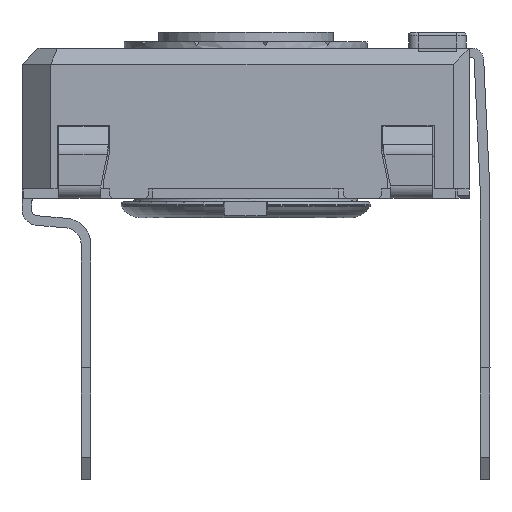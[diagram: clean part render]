
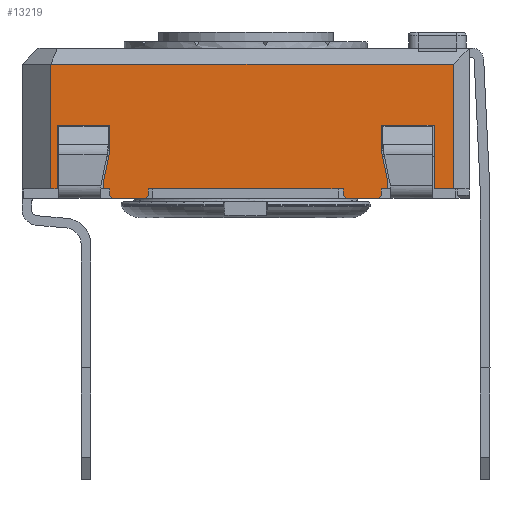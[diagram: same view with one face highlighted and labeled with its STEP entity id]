
A CAD part, left-side view. The second image highlights one B-rep face of the part: STEP entity #13219.
In plain terms, the highlighted planar face has unit normal (-1, 0, 0).
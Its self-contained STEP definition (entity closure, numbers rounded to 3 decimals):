
#1038=FACE_OUTER_BOUND('',#1726,.T.);
#1726=EDGE_LOOP('',(#10558,#10559,#10560,#10561,#10562,#10563,#10564,#10565,
#10566,#10567,#10568,#10569,#10570,#10571,#10572,#10573,#10574,#10575,#10576,
#10577,#10578,#10579,#10580,#10581,#10582,#10583,#10584,#10585));
#2730=LINE('',#20241,#4245);
#2736=LINE('',#20253,#4251);
#2739=LINE('',#20260,#4254);
#2744=LINE('',#20269,#4259);
#2764=LINE('',#20310,#4279);
#2778=LINE('',#20336,#4293);
#2782=LINE('',#20343,#4297);
#2797=LINE('',#20372,#4312);
#2800=LINE('',#20378,#4315);
#2805=LINE('',#20388,#4320);
#2808=LINE('',#20394,#4323);
#2811=LINE('',#20400,#4326);
#2829=LINE('',#20435,#4344);
#2841=LINE('',#20457,#4356);
#2844=LINE('',#20463,#4359);
#2881=LINE('',#20597,#4396);
#2884=LINE('',#20603,#4399);
#2910=LINE('',#20650,#4425);
#2915=LINE('',#20660,#4430);
#2917=LINE('',#20663,#4432);
#3042=LINE('',#20974,#4557);
#3044=LINE('',#20979,#4559);
#3047=LINE('',#20983,#4562);
#3049=LINE('',#20987,#4564);
#3052=LINE('',#20995,#4567);
#3053=LINE('',#20997,#4568);
#3054=LINE('',#20998,#4569);
#3055=LINE('',#20999,#4570);
#4245=VECTOR('',#16207,10.);
#4251=VECTOR('',#16215,10.);
#4254=VECTOR('',#16220,10.);
#4259=VECTOR('',#16227,10.);
#4279=VECTOR('',#16261,10.);
#4293=VECTOR('',#16275,10.);
#4297=VECTOR('',#16279,10.);
#4312=VECTOR('',#16306,10.);
#4315=VECTOR('',#16311,10.);
#4320=VECTOR('',#16318,10.);
#4323=VECTOR('',#16323,10.);
#4326=VECTOR('',#16328,10.);
#4344=VECTOR('',#16348,10.);
#4356=VECTOR('',#16362,10.);
#4359=VECTOR('',#16367,10.);
#4396=VECTOR('',#16448,10.);
#4399=VECTOR('',#16453,10.);
#4425=VECTOR('',#16481,10.);
#4430=VECTOR('',#16488,10.);
#4432=VECTOR('',#16492,10.);
#4557=VECTOR('',#16783,10.);
#4559=VECTOR('',#16787,10.);
#4562=VECTOR('',#16792,10.);
#4564=VECTOR('',#16798,10.);
#4567=VECTOR('',#16809,10.);
#4568=VECTOR('',#16810,10.);
#4569=VECTOR('',#16811,10.);
#4570=VECTOR('',#16812,10.);
#5672=VERTEX_POINT('',#20238);
#5673=VERTEX_POINT('',#20240);
#5677=VERTEX_POINT('',#20250);
#5679=VERTEX_POINT('',#20256);
#5681=VERTEX_POINT('',#20259);
#5684=VERTEX_POINT('',#20267);
#5709=VERTEX_POINT('',#20333);
#5710=VERTEX_POINT('',#20335);
#5712=VERTEX_POINT('',#20340);
#5713=VERTEX_POINT('',#20342);
#5720=VERTEX_POINT('',#20369);
#5722=VERTEX_POINT('',#20375);
#5726=VERTEX_POINT('',#20385);
#5728=VERTEX_POINT('',#20391);
#5731=VERTEX_POINT('',#20398);
#5747=VERTEX_POINT('',#20433);
#5756=VERTEX_POINT('',#20455);
#5758=VERTEX_POINT('',#20461);
#5785=VERTEX_POINT('',#20595);
#5786=VERTEX_POINT('',#20600);
#5806=VERTEX_POINT('',#20647);
#5810=VERTEX_POINT('',#20657);
#5884=VERTEX_POINT('',#20971);
#5885=VERTEX_POINT('',#20973);
#5886=VERTEX_POINT('',#20977);
#5887=VERTEX_POINT('',#20978);
#5888=VERTEX_POINT('',#20994);
#5889=VERTEX_POINT('',#20996);
#7214=EDGE_CURVE('',#5673,#5672,#2730,.T.);
#7220=EDGE_CURVE('',#5672,#5677,#2736,.T.);
#7223=EDGE_CURVE('',#5681,#5679,#2739,.T.);
#7228=EDGE_CURVE('',#5684,#5679,#2744,.T.);
#7248=EDGE_CURVE('',#5677,#5681,#2764,.T.);
#7262=EDGE_CURVE('',#5710,#5709,#2778,.T.);
#7266=EDGE_CURVE('',#5713,#5712,#2782,.T.);
#7282=EDGE_CURVE('',#5709,#5720,#2797,.T.);
#7285=EDGE_CURVE('',#5720,#5722,#2800,.T.);
#7290=EDGE_CURVE('',#5722,#5726,#2805,.T.);
#7293=EDGE_CURVE('',#5726,#5728,#2808,.T.);
#7296=EDGE_CURVE('',#5728,#5731,#2811,.T.);
#7314=EDGE_CURVE('',#5731,#5747,#2829,.T.);
#7326=EDGE_CURVE('',#5756,#5747,#2841,.T.);
#7329=EDGE_CURVE('',#5758,#5756,#2844,.T.);
#7378=EDGE_CURVE('',#5785,#5758,#2881,.T.);
#7381=EDGE_CURVE('',#5785,#5786,#2884,.T.);
#7407=EDGE_CURVE('',#5786,#5806,#2910,.T.);
#7412=EDGE_CURVE('',#5806,#5810,#2915,.T.);
#7414=EDGE_CURVE('',#5810,#5673,#2917,.T.);
#7555=EDGE_CURVE('',#5884,#5885,#3042,.T.);
#7557=EDGE_CURVE('',#5886,#5887,#3044,.T.);
#7560=EDGE_CURVE('',#5710,#5884,#3047,.T.);
#7562=EDGE_CURVE('',#5712,#5887,#3049,.T.);
#7565=EDGE_CURVE('',#5684,#5888,#3052,.T.);
#7566=EDGE_CURVE('',#5889,#5888,#3053,.T.);
#7567=EDGE_CURVE('',#5713,#5889,#3054,.T.);
#7568=EDGE_CURVE('',#5886,#5885,#3055,.T.);
#10558=ORIENTED_EDGE('',*,*,#7220,.T.);
#10559=ORIENTED_EDGE('',*,*,#7248,.T.);
#10560=ORIENTED_EDGE('',*,*,#7223,.T.);
#10561=ORIENTED_EDGE('',*,*,#7228,.F.);
#10562=ORIENTED_EDGE('',*,*,#7565,.T.);
#10563=ORIENTED_EDGE('',*,*,#7566,.F.);
#10564=ORIENTED_EDGE('',*,*,#7567,.F.);
#10565=ORIENTED_EDGE('',*,*,#7266,.T.);
#10566=ORIENTED_EDGE('',*,*,#7562,.T.);
#10567=ORIENTED_EDGE('',*,*,#7557,.F.);
#10568=ORIENTED_EDGE('',*,*,#7568,.T.);
#10569=ORIENTED_EDGE('',*,*,#7555,.F.);
#10570=ORIENTED_EDGE('',*,*,#7560,.F.);
#10571=ORIENTED_EDGE('',*,*,#7262,.T.);
#10572=ORIENTED_EDGE('',*,*,#7282,.T.);
#10573=ORIENTED_EDGE('',*,*,#7285,.T.);
#10574=ORIENTED_EDGE('',*,*,#7290,.T.);
#10575=ORIENTED_EDGE('',*,*,#7293,.T.);
#10576=ORIENTED_EDGE('',*,*,#7296,.T.);
#10577=ORIENTED_EDGE('',*,*,#7314,.T.);
#10578=ORIENTED_EDGE('',*,*,#7326,.F.);
#10579=ORIENTED_EDGE('',*,*,#7329,.F.);
#10580=ORIENTED_EDGE('',*,*,#7378,.F.);
#10581=ORIENTED_EDGE('',*,*,#7381,.T.);
#10582=ORIENTED_EDGE('',*,*,#7407,.T.);
#10583=ORIENTED_EDGE('',*,*,#7412,.T.);
#10584=ORIENTED_EDGE('',*,*,#7414,.T.);
#10585=ORIENTED_EDGE('',*,*,#7214,.T.);
#12383=PLANE('',#14112);
#13219=ADVANCED_FACE('',(#1038),#12383,.T.);
#14112=AXIS2_PLACEMENT_3D('',#20993,#16807,#16808);
#16207=DIRECTION('',(0.,0.208,-0.978));
#16215=DIRECTION('',(0.,0.,-1.));
#16220=DIRECTION('',(0.,0.,-1.));
#16227=DIRECTION('',(0.,0.707,0.707));
#16261=DIRECTION('',(0.,-1.,0.));
#16275=DIRECTION('',(0.,-1.,0.));
#16279=DIRECTION('',(0.,-1.,0.));
#16306=DIRECTION('',(0.,0.,1.));
#16311=DIRECTION('',(0.,0.208,0.978));
#16318=DIRECTION('',(0.,0.,1.));
#16323=DIRECTION('',(0.,-1.,0.));
#16328=DIRECTION('',(0.,0.,-1.));
#16348=DIRECTION('',(0.,-1.,0.));
#16362=DIRECTION('',(0.,0.,-1.));
#16367=DIRECTION('',(0.,-1.,0.));
#16448=DIRECTION('',(0.,0.,1.));
#16453=DIRECTION('',(0.,-1.,0.));
#16481=DIRECTION('',(0.,0.,1.));
#16488=DIRECTION('',(0.,-1.,0.));
#16492=DIRECTION('',(0.,0.,-1.));
#16783=DIRECTION('',(0.,0.707,-0.707));
#16787=DIRECTION('',(0.,0.707,0.707));
#16792=DIRECTION('',(0.,0.,-1.));
#16798=DIRECTION('',(0.,0.,-1.));
#16807=DIRECTION('center_axis',(-1.,0.,0.));
#16808=DIRECTION('ref_axis',(0.,0.,1.));
#16809=DIRECTION('',(0.,-1.,0.));
#16810=DIRECTION('',(0.,0.707,-0.707));
#16811=DIRECTION('',(0.,0.,-1.));
#16812=DIRECTION('',(0.,-1.,0.));
#20238=CARTESIAN_POINT('',(-14.467,1.552,0.235));
#20240=CARTESIAN_POINT('',(-14.467,1.352,1.176));
#20241=CARTESIAN_POINT('',(-14.467,1.228,1.757));
#20250=CARTESIAN_POINT('',(-14.467,1.552,0.));
#20253=CARTESIAN_POINT('',(-14.467,1.552,0.));
#20256=CARTESIAN_POINT('',(-14.467,1.352,-0.2));
#20259=CARTESIAN_POINT('',(-14.467,1.352,0.));
#20260=CARTESIAN_POINT('',(-14.467,1.352,0.));
#20267=CARTESIAN_POINT('',(-14.467,1.252,-0.3));
#20269=CARTESIAN_POINT('',(-14.467,-1.436,-2.988));
#20310=CARTESIAN_POINT('',(-14.467,4.102,0.));
#20333=CARTESIAN_POINT('',(-14.467,-7.348,0.));
#20335=CARTESIAN_POINT('',(-14.467,-7.148,0.));
#20336=CARTESIAN_POINT('',(-14.467,4.102,0.));
#20340=CARTESIAN_POINT('',(-14.467,-5.948,0.));
#20342=CARTESIAN_POINT('',(-14.467,0.152,0.));
#20343=CARTESIAN_POINT('',(-14.467,4.102,0.));
#20369=CARTESIAN_POINT('',(-14.467,-7.348,0.235));
#20372=CARTESIAN_POINT('',(-14.467,-7.348,0.118));
#20375=CARTESIAN_POINT('',(-14.467,-7.148,1.176));
#20378=CARTESIAN_POINT('',(-14.467,-7.453,-0.254));
#20385=CARTESIAN_POINT('',(-14.467,-7.148,2.));
#20388=CARTESIAN_POINT('',(-14.467,-7.148,0.588));
#20391=CARTESIAN_POINT('',(-14.467,-8.798,2.));
#20394=CARTESIAN_POINT('',(-14.467,-8.523,2.));
#20398=CARTESIAN_POINT('',(-14.467,-8.798,0.));
#20400=CARTESIAN_POINT('',(-14.467,-8.798,0.));
#20433=CARTESIAN_POINT('',(-14.467,-9.398,0.));
#20435=CARTESIAN_POINT('',(-14.467,-9.595,0.));
#20455=CARTESIAN_POINT('',(-14.467,-9.398,3.9));
#20457=CARTESIAN_POINT('',(-14.467,-9.398,0.));
#20461=CARTESIAN_POINT('',(-14.467,3.202,3.9));
#20463=CARTESIAN_POINT('',(-14.467,-6.398,3.9));
#20595=CARTESIAN_POINT('',(-14.467,3.202,0.));
#20597=CARTESIAN_POINT('',(-14.467,3.202,0.));
#20600=CARTESIAN_POINT('',(-14.467,3.002,0.));
#20603=CARTESIAN_POINT('',(-14.467,-2.985,0.));
#20647=CARTESIAN_POINT('',(-14.467,3.002,2.));
#20650=CARTESIAN_POINT('',(-14.467,3.002,0.));
#20657=CARTESIAN_POINT('',(-14.467,1.352,2.));
#20660=CARTESIAN_POINT('',(-14.467,-3.448,2.));
#20663=CARTESIAN_POINT('',(-14.467,1.352,1.));
#20971=CARTESIAN_POINT('',(-14.467,-7.148,-0.2));
#20973=CARTESIAN_POINT('',(-14.467,-7.048,-0.3));
#20974=CARTESIAN_POINT('',(-14.467,-7.861,0.513));
#20977=CARTESIAN_POINT('',(-14.467,-6.048,-0.3));
#20978=CARTESIAN_POINT('',(-14.467,-5.948,-0.2));
#20979=CARTESIAN_POINT('',(-14.467,-6.911,-1.163));
#20983=CARTESIAN_POINT('',(-14.467,-7.148,0.));
#20987=CARTESIAN_POINT('',(-14.467,-5.948,0.));
#20993=CARTESIAN_POINT('Origin',(-14.467,-9.898,0.));
#20994=CARTESIAN_POINT('',(-14.467,0.252,-0.3));
#20995=CARTESIAN_POINT('',(-14.467,0.152,-0.3));
#20996=CARTESIAN_POINT('',(-14.467,0.152,-0.2));
#20997=CARTESIAN_POINT('',(-14.467,-2.386,2.338));
#20998=CARTESIAN_POINT('',(-14.467,0.152,0.));
#20999=CARTESIAN_POINT('',(-14.467,-7.148,-0.3));
